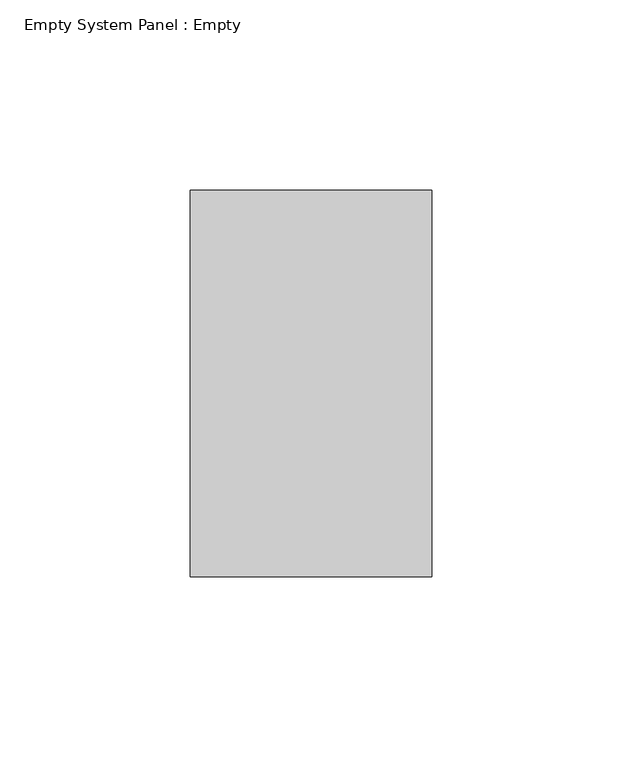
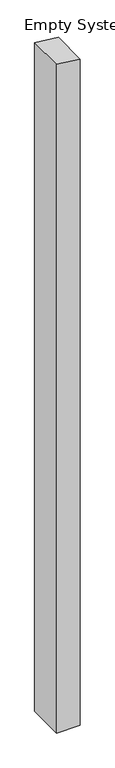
"""IFC4 building model written with IfcOpenShell, lengths in millimetres: plate geometry, Empty System Panel : Empty."""

from ifc_helpers import new_model, si_unit, frame, origin, place, context, project, spatial, polyline, outline, extrude, source, transform, mapped, element, save


def empty_system_panel_empty_a76b6b49(model_context):
    return source(origin(), model_context, "Body", "SweptSolid", [
        extrude(outline(polyline([(0.0, -31.75), (0.0, 31.75), (1890.4940731, 31.75), (1897.5964321, -31.75), (0.0, -31.75)])), frame((0.0, -50.8, 0.0), z_axis=(0.0, 1.0, 0.0), x_axis=(0.0, 0.0, 1.0)), (0.0, 0.0, 1.0), 101.6),
    ])


if __name__ == "__main__":
    model = new_model("IFC4")
    model_context = context("Model", 3, world=origin())
    ifc_project = project(units=[si_unit("LENGTHUNIT", "METRE", prefix="MILLI")], contexts=[model_context])
    site = spatial("IfcSite", under=ifc_project)
    building = spatial("IfcBuilding", under=site)
    placement = place(None, origin())
    empty_system_panel_empty_shape = empty_system_panel_empty_a76b6b49(model_context)
    element("IfcPlate", 1, ObjectType="Empty System Panel : Empty", at=placement, inside=building, context=model_context, shape_type="MappedRepresentation", body=[
        mapped(empty_system_panel_empty_shape, transform((0.0, 0.0, 0.0), x_axis=(1.0, 0.0, 0.0), y_axis=(0.0, 1.0, 0.0), z_axis=(0.0, 0.0, 1.0))),
    ])
    save(model, "model.ifc")
